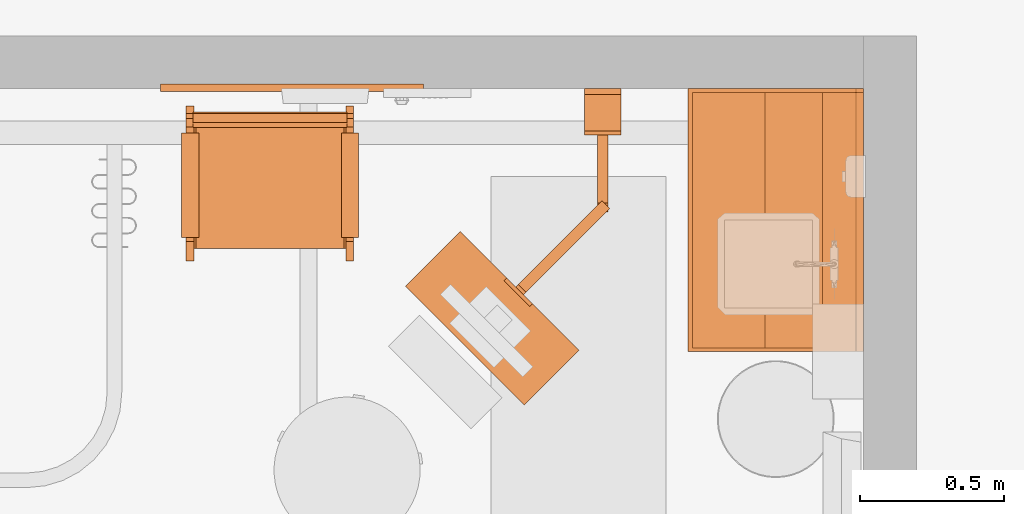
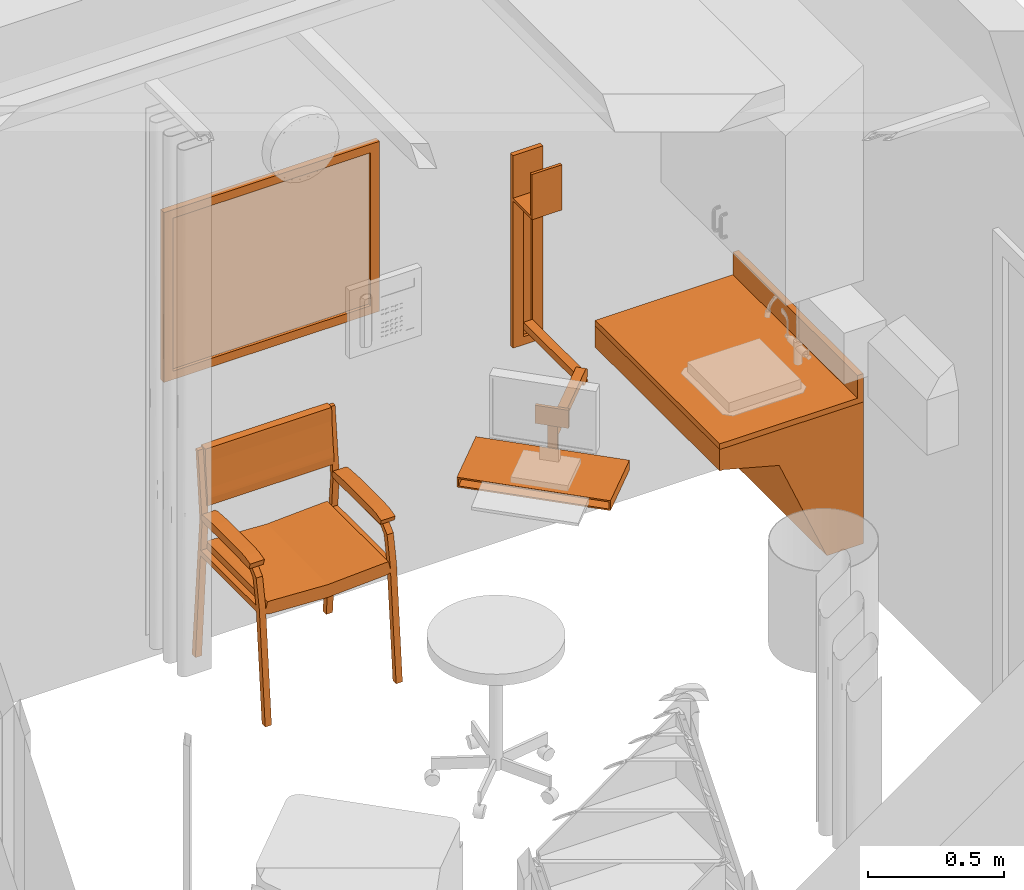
# One storey, part 53 of 142: 5 proxies.
"""IFC2X3 building model written with IfcOpenShell, lengths in feet."""

from ifc_helpers import new_model, entity, si_unit, converted_unit, derived_unit, direction, frame, frame_2d, origin, origin_2d_with_axis, place, context, subcontext, project, spatial, polyline, circle_curve, parameter, trimmed, segment, composite_curve, rectangle, circle, outline, extrude, source, transform, mapped, type_object, type_shapes, element, save


model = new_model("IFC2X3")

# Units and contexts
model_context = context("Model", 3, precision=0.0001, world=origin(), true_north=direction((6.12303176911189e-17, 1.0)))
body_context = subcontext(model_context, "Body", "Model", "MODEL_VIEW")
ifc_project = project(units=[converted_unit("LENGTHUNIT", "FOOT", entity("IfcRatioMeasure", 0.3048), si_unit("LENGTHUNIT", "METRE"), dimensions=[1, 0, 0, 0, 0, 0, 0]), converted_unit("AREAUNIT", "SQUARE FOOT", entity("IfcRatioMeasure", 0.09290304), si_unit("AREAUNIT", "SQUARE_METRE"), dimensions=[2, 0, 0, 0, 0, 0, 0]), converted_unit("VOLUMEUNIT", "CUBIC FOOT", entity("IfcRatioMeasure", 0.028316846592), si_unit("VOLUMEUNIT", "CUBIC_METRE"), dimensions=[3, 0, 0, 0, 0, 0, 0]), converted_unit("PLANEANGLEUNIT", "DEGREE", entity("IfcRatioMeasure", 0.0174532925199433), si_unit("PLANEANGLEUNIT", "RADIAN"), dimensions=[0, 0, 0, 0, 0, 0, 0]), si_unit("MASSUNIT", "GRAM", prefix="KILO"), derived_unit("MASSDENSITYUNIT", [(si_unit("MASSUNIT", "GRAM", prefix="KILO"), 1), (si_unit("LENGTHUNIT", "METRE"), -3)]), si_unit("TIMEUNIT", "SECOND"), si_unit("FREQUENCYUNIT", "HERTZ"), si_unit("THERMODYNAMICTEMPERATUREUNIT", "DEGREE_CELSIUS"), derived_unit("THERMALTRANSMITTANCEUNIT", [(si_unit("MASSUNIT", "GRAM", prefix="KILO"), 1), (si_unit("THERMODYNAMICTEMPERATUREUNIT", "KELVIN"), -1), (si_unit("TIMEUNIT", "SECOND"), -3)]), derived_unit("VOLUMETRICFLOWRATEUNIT", [(si_unit("LENGTHUNIT", "METRE"), 3), (si_unit("TIMEUNIT", "SECOND"), -1)]), si_unit("ELECTRICCURRENTUNIT", "AMPERE"), si_unit("ELECTRICVOLTAGEUNIT", "VOLT"), si_unit("POWERUNIT", "WATT"), si_unit("FORCEUNIT", "NEWTON"), si_unit("ILLUMINANCEUNIT", "LUX"), si_unit("LUMINOUSFLUXUNIT", "LUMEN"), si_unit("LUMINOUSINTENSITYUNIT", "CANDELA"), derived_unit("USERDEFINED", [(si_unit("MASSUNIT", "GRAM", prefix="KILO"), -1), (si_unit("LENGTHUNIT", "METRE"), -2), (si_unit("TIMEUNIT", "SECOND"), 3), (si_unit("LUMINOUSFLUXUNIT", "LUMEN"), 1)]), derived_unit("LINEARVELOCITYUNIT", [(si_unit("LENGTHUNIT", "METRE"), 1), (si_unit("TIMEUNIT", "SECOND"), -1)]), si_unit("PRESSUREUNIT", "PASCAL"), derived_unit("USERDEFINED", [(si_unit("LENGTHUNIT", "METRE"), -2), (si_unit("MASSUNIT", "GRAM", prefix="KILO"), 1), (si_unit("TIMEUNIT", "SECOND"), -2)])], contexts=[model_context])

# Site, building, storey
site_placement = place(None, origin())
site = spatial("IfcSite", under=ifc_project, at=site_placement, Name="Default", CompositionType="ELEMENT")
building_placement = place(site_placement, origin())
building = spatial("IfcBuilding", under=site, at=building_placement, Name="OUTPATIENT / PACT CLINIC (Ch. 265)", CompositionType="ELEMENT")
storey_placement = place(building_placement, origin())
storey = spatial("IfcBuildingStorey", under=building, at=storey_placement, Name="LEVEL 1", CompositionType="ELEMENT", Elevation=0.0)

# Proxy
building_element_proxy_type_1 = type_object("IfcBuildingElementProxyType", Name="F3025 - Board, Bulletin, Wood Framed", PredefinedType="NOTDEFINED")
shared_shape_1 = source(origin(), body_context, "Body", "SweptSolid", [
    extrude(rectangle(XDim=0.0416666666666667, YDim=2.74999999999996, at=origin_2d_with_axis()), frame((0.0, -0.020833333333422, 0.124999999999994), z_axis=(0.0, 0.0, 1.0), x_axis=(0.0, 1.0, 0.0)), (0.0, 0.0, 1.0), 2.25000000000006),
    extrude(outline(polyline([(-1.49999999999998, -1.25), (1.49999999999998, -1.25), (1.49999999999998, 1.25), (-1.49999999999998, 1.25), (-1.49999999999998, -1.25)]), holes=[polyline([(-1.37499999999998, -1.125), (-1.37499999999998, 1.12500000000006), (1.37499999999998, 1.12500000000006), (1.37499999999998, -1.125), (-1.37499999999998, -1.125)])]), frame((0.0, -0.0833333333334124, 1.25), z_axis=(0.0, 1.0, 0.0), x_axis=(-1.0, 0.0, 0.0)), (0.0, 0.0, 1.0), 0.0833333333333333),
])
type_shapes(building_element_proxy_type_1, [shared_shape_1])
proxy_1_placement = place(storey_placement, frame((396.945201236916, -876.368436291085, 4.0)))
element("IfcBuildingElementProxy", 1, at=proxy_1_placement, inside=storey, type_object=building_element_proxy_type_1, Name="F3025 - Board, Bulletin, Wood Framed:F3025 - Board, Bulletin, Wood Framed", ObjectType="F3025 - Board, Bulletin, Wood Framed", context=body_context, shape_type="MappedRepresentation", body=[
    mapped(shared_shape_1, transform((0.0, 0.0, 0.0), scale=1.0)),
])

# Space
space_placement = place(storey_placement, origin())
space = spatial("IfcSpace", under=storey, at=space_placement, Name="EXPA01", CompositionType="ELEMENT", InteriorOrExteriorSpace="INTERNAL")

# Proxies
building_element_proxy_type_2 = type_object("IfcBuildingElementProxyType", Name="M1803 - Workstation, Computer, Wall Mounted", PredefinedType="NOTDEFINED")
shared_shape_2 = source(origin(), body_context, "Body", "SweptSolid", [
    extrude(circle(Radius=0.104166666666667, at=frame_2d((1.0547118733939e-15, 3.336446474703e-16), x_axis=(1.0, 0.0))), frame((-0.0810226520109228, -1.34888430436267, 0.333333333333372), z_axis=(0.707106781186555, -0.70710678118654, 0.0), x_axis=(0.0, 0.0, 1.0)), (0.0, 0.0, 1.0), 0.125000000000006),
    extrude(outline(composite_curve([segment(polyline([(0.0520833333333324, -0.592708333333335), (0.0520833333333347, 0.644791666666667)]), True, "CONTINUOUS"), segment(polyline([(0.0520833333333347, 0.644791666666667), (-0.0520833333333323, 0.644791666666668)]), True, "CONTINUOUS"), segment(polyline([(-0.0520833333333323, 0.644791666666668), (-0.0520833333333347, -0.696875)]), True, "CONTINUOUS"), segment(trimmed(circle_curve(frame_2d((0.0520833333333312, -0.696875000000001), x_axis=(1.0, 0.0)), 0.104166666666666), [parameter(89.9999999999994)], [parameter(180.0)], True, "PARAMETER"), False, "CONTINUOUS")], self_intersect=False)), frame((-0.0624999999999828, -0.711458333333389, 0.281250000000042), z_axis=(-1.0, 0.0, 0.0), x_axis=(0.0, 0.0, 1.0)), (0.0, 0.0, -1.0), 0.125000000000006),
    extrude(outline(composite_curve([segment(polyline([(0.0520833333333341, -0.651041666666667), (0.0520833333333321, 0.598958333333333)]), True, "CONTINUOUS"), segment(polyline([(0.0520833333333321, 0.598958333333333), (-0.0520833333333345, 0.598958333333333)]), True, "CONTINUOUS"), segment(polyline([(-0.0520833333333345, 0.598958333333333), (-0.0520833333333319, -0.546875)]), True, "CONTINUOUS"), segment(trimmed(circle_curve(frame_2d((-0.0520833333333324, -0.651041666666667), x_axis=(1.0, 0.0)), 0.104166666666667), [parameter(1.01777749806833e-13)], [parameter(90.0000000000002)], True, "PARAMETER"), False, "CONTINUOUS")], self_intersect=False)), frame((-0.452990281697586, -1.89762862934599, 0.385416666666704), z_axis=(0.707106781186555, -0.70710678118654, 0.0), x_axis=(0.0, 0.0, 1.0)), (0.0, 0.0, -1.0), 0.125000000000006),
    extrude(outline(polyline([(-0.0729166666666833, -0.95833333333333), (0.0729166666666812, -0.95833333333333), (0.0729166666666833, 0.95833333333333), (-0.0729166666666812, 0.95833333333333), (-0.0729166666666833, -0.95833333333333)]), holes=[polyline([(-0.05208333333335, -0.937499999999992), (-0.052083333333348, 0.937499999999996), (0.0520833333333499, 0.937499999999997), (0.0520833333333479, -0.937499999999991), (-0.05208333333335, -0.937499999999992)])]), frame((-1.5747857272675, -2.93103572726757, 0.0729166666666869), z_axis=(0.707106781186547, 0.707106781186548, 0.0), x_axis=(0.0, 0.0, -1.0)), (0.0, 0.0, 1.0), 0.883333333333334),
    extrude(rectangle(XDim=0.0666666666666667, YDim=0.416666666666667, at=origin_2d_with_axis()), frame((0.0, -0.0333333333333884, 0.0), z_axis=(0.0, 0.0, 1.0), x_axis=(0.0, 1.0, 0.0)), (0.0, 0.0, 1.0), 0.11949518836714),
    extrude(outline(polyline([(-0.208333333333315, -0.0270833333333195), (-0.0625000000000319, -0.0270833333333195), (-0.0625000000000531, 0.014583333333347), (0.0625000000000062, 0.014583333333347), (0.0625000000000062, -0.0270833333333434), (0.208333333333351, -0.0270833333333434), (0.208333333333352, 0.0395833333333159), (-0.208333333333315, 0.0395833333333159), (-0.208333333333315, -0.0270833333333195)])), frame((0.0, -0.0395833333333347, 0.119495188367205)), (0.0, 0.0, 1.0), 2.0471714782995),
    extrude(outline(polyline([(-0.194444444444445, 0.125), (0.430555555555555, 0.125), (0.430555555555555, 0.166666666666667), (-0.236111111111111, 0.166666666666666), (-0.236111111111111, -0.291666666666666), (-0.194444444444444, -0.291666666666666), (-0.194444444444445, 0.125)])), frame((-0.208333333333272, -0.358333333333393, 2.40277777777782), z_axis=(1.0, 0.0, 0.0), x_axis=(0.0, 0.0, 1.0)), (0.0, 0.0, 1.0), 0.416666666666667),
    extrude(rectangle(XDim=0.0416666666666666, YDim=0.416666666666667, at=frame_2d((4.16333634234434e-17, -5.55111512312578e-17), x_axis=(1.0, 0.0))), frame((-0.964906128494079, -2.3211561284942, 0.503601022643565), z_axis=(0.0, 0.0, 1.0), x_axis=(0.707106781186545, 0.70710678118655, 0.0)), (0.0, 0.0, 1.0), 0.267232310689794),
    extrude(rectangle(XDim=0.125000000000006, YDim=0.0416666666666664, at=frame_2d((-1.94289029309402e-16, 1.16226472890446e-16), x_axis=(1.0, 0.0))), frame((-0.935443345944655, -2.29169334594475, 0.0), z_axis=(0.0, 0.0, 1.0), x_axis=(-0.707106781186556, 0.70710678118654, 0.0)), (0.0, 0.0, 1.0), 0.666666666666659),
    extrude(rectangle(XDim=0.0666666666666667, YDim=0.416666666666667, at=origin_2d_with_axis()), frame((0.0, -0.0333333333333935, 2.16666666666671), z_axis=(0.0, 0.0, 1.0), x_axis=(0.0, 1.0, 0.0)), (0.0, 0.0, 1.0), 0.666666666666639),
])
type_shapes(building_element_proxy_type_2, [shared_shape_2])
proxy_2_placement = place(space_placement, frame((400.489351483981, -876.420519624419, 2.83333333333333)))
element("IfcBuildingElementProxy", 2, at=proxy_2_placement, inside=space, type_object=building_element_proxy_type_2, Name="M1803 - Workstation, Computer, Wall Mounted1:M1803 - Workstation, Computer, Wall Mounted", ObjectType="M1803 - Workstation, Computer, Wall Mounted", context=body_context, shape_type="MappedRepresentation", body=[
    mapped(shared_shape_2, transform((0.0, 0.0, 0.0), scale=1.0)),
])
building_element_proxy_type_3 = type_object("IfcBuildingElementProxyType", Name="F0205 - Chair, Side With Arms", PredefinedType="NOTDEFINED")
shared_shape_3 = source(origin(), body_context, "Body", "SweptSolid", [
    extrude(outline(polyline([(-0.104007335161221, -0.374369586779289), (-0.027711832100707, -0.374369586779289), (-0.0197350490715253, -0.338348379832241), (0.00592434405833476, -0.182113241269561), (0.0162560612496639, -0.135457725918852), (0.0457826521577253, -0.00212284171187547), (0.0856087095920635, 0.177721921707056), (0.112798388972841, 0.276572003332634), (0.120257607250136, 0.307674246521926), (0.129202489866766, 0.415216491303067), (0.045581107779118, 0.433734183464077), (0.0167028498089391, 0.395704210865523), (-0.0364083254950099, 0.222671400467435), (-0.125070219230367, -0.177704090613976), (-0.13682888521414, -0.27538652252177), (-0.128352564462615, -0.36942248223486), (-0.104007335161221, -0.374369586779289)])), frame((-0.891159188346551, -0.878769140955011, 2.73061112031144), z_axis=(0.0, 1.0, 0.0), x_axis=(0.991475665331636, 0.0, -0.130291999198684)), (0.0, 0.0, 1.0), 1.75919993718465),
    extrude(outline(polyline([(0.0907668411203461, -0.842703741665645), (0.261538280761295, -0.842703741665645), (0.265730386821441, -0.773999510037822), (0.127479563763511, 0.0287496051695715), (-0.0923338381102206, 0.813085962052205), (-0.125373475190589, 0.873420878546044), (-0.279635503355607, 0.800086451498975), (-0.270660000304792, 0.752608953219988), (-0.0560029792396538, -0.0126173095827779), (0.0784907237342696, -0.795927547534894), (0.0907668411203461, -0.842703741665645)])), frame((-0.90556950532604, 0.000822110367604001, 1.62079321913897), z_axis=(1.0, 0.0, 0.0), x_axis=(0.0, -0.219936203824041, -0.975514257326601)), (0.0, 0.0, 1.0), 1.47211210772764),
    extrude(outline(polyline([(-0.552031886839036, -0.234422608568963), (-0.484734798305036, -0.234422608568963), (-0.233837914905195, -0.160903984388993), (0.324339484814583, 0.0422559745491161), (0.453697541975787, 0.101150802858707), (0.564536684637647, 0.176717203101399), (0.51204038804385, 0.250193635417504), (0.420212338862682, 0.216770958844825), (0.254858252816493, 0.145732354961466), (-0.246233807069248, -0.0366502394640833), (-0.436544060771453, -0.0986810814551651), (-0.576302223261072, -0.167740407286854), (-0.552031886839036, -0.234422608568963)])), frame((-0.1510824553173, -1.00916916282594, 2.22827697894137), z_axis=(0.0, 1.0, 0.0), x_axis=(0.939692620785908, 0.0, 0.34202014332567)), (0.0, 0.0, 1.0), 0.198199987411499),
    extrude(outline(polyline([(-0.525375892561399, -0.221085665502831), (-0.458078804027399, -0.221085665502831), (-0.207181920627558, -0.147567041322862), (0.350995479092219, 0.0555929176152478), (0.480353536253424, 0.114487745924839), (0.591192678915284, 0.190054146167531), (0.551062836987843, 0.246221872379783), (0.114629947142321, 0.0873732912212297), (0.281514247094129, 0.159069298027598), (-0.219577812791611, -0.0233132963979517), (-0.409888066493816, -0.0853441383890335), (-0.549646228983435, -0.154403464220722), (-0.525375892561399, -0.221085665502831)])), frame((-0.180692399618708, 0.814330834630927, 2.23169271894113), z_axis=(0.0, 1.0, 0.0), x_axis=(0.939692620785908, 0.0, 0.34202014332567)), (0.0, 0.0, 1.0), 0.196499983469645),
    extrude(outline(polyline([(0.0166377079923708, -0.666422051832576), (0.099971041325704, -0.666422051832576), (-0.0172324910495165, 0.673220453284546), (-0.0993762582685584, 0.659623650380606), (0.0166377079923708, -0.666422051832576)])), frame((-0.182442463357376, -0.954369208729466, 1.61480726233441), z_axis=(0.0, 1.0, 0.0), x_axis=(0.0871557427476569, 0.0, -0.996194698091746)), (0.0, 0.0, 1.0), 0.0833333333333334),
    extrude(outline(polyline([(0.0166377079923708, -0.666422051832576), (0.099971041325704, -0.666422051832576), (-0.0172324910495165, 0.673220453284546), (-0.0993762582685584, 0.659623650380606), (0.0166377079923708, -0.666422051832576)])), frame((-0.182442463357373, 0.867430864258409, 1.61480726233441), z_axis=(0.0, 1.0, 0.0), x_axis=(0.0871557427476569, 0.0, -0.996194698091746)), (0.0, 0.0, 1.0), 0.0833333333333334),
    extrude(outline(polyline([(0.811855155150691, -1.61770011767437), (0.895188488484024, -1.61770011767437), (0.71143329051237, 0.489199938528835), (0.806416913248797, 1.46713632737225), (0.751033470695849, 1.46713632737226), (0.656855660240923, 0.571094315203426), (-0.516612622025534, 0.571094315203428), (-0.653571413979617, 0.441277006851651), (-0.728375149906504, 0.0391907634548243), (-0.871611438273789, -1.61770011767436), (-0.791571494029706, -1.61770011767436), (-0.646611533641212, 0.0391998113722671), (-0.578172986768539, 0.407071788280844), (-0.496044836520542, 0.48919993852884), (0.649788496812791, 0.489199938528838), (0.811855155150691, -1.61770011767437)])), frame((-0.163768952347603, -0.954369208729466, 1.61770011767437), z_axis=(0.0, 1.0, 0.0), x_axis=(-1.0, 0.0, 0.0)), (0.0, 0.0, 1.0), 0.0885709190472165),
    extrude(outline(polyline([(0.811855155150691, -1.61770011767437), (0.895188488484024, -1.61770011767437), (0.71143329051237, 0.489199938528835), (0.806416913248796, 1.46713632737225), (0.751033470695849, 1.46713632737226), (0.656855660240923, 0.571094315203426), (-0.516612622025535, 0.571094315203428), (-0.653571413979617, 0.441277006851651), (-0.728375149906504, 0.0391907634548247), (-0.871611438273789, -1.61770011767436), (-0.791571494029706, -1.61770011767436), (-0.646611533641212, 0.0391998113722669), (-0.578172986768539, 0.407071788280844), (-0.496044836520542, 0.48919993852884), (0.649788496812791, 0.489199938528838), (0.811855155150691, -1.61770011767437)])), frame((-0.1637689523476, 0.867430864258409, 1.61770011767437), z_axis=(0.0, 1.0, 0.0), x_axis=(-1.0, 0.0, 0.0)), (0.0, 0.0, 1.0), 0.0885709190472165),
])
type_shapes(building_element_proxy_type_3, [shared_shape_3])
proxy_3_placement = place(space_placement, frame((396.692476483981, -877.675727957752, 0.0), z_axis=(0.0, 0.0, 1.0), x_axis=(0.0, -1.0, 0.0)))
element("IfcBuildingElementProxy", 3, at=proxy_3_placement, inside=space, type_object=building_element_proxy_type_3, Name="F0205 - Chair, Side With Arms:F0205 - Chair, Side With Arms", ObjectType="F0205 - Chair, Side With Arms", context=body_context, shape_type="MappedRepresentation", body=[
    mapped(shared_shape_3, transform((0.0, 0.0, 0.0), scale=1.0)),
])
building_element_proxy_type_4 = type_object("IfcBuildingElementProxyType", Name="CT020 - Countertop, Solid Surface - No Opening (1)", PredefinedType="NOTDEFINED")
shared_shape_4 = source(origin(), body_context, "Body", "SweptSolid", [
    extrude(rectangle(XDim=3.0, YDim=0.083333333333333, at=frame_2d((0.0, -5.55111512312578e-17), x_axis=(1.0, 0.0))), frame((0.0, 0.958333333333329, 0.0833333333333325)), (0.0, 0.0, 1.0), 0.333333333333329),
    extrude(rectangle(XDim=3.0, YDim=2.0, at=origin_2d_with_axis()), origin(), (0.0, 0.0, 1.0), 0.0833333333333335),
])
type_shapes(building_element_proxy_type_4, [shared_shape_4])
proxy_4_placement = place(space_placement, frame((402.463309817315, -877.920519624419, 2.70833333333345), z_axis=(0.0, 0.0, 1.0), x_axis=(0.0, -1.0, 0.0)))
element("IfcBuildingElementProxy", 4, at=proxy_4_placement, inside=space, type_object=building_element_proxy_type_4, Name="CT020 - Countertop, Solid Surface - No Opening (1):CT020 - Countertop, Solid Surface - No Opening (1)", ObjectType="CT020 - Countertop, Solid Surface - No Opening (1)", context=body_context, shape_type="MappedRepresentation", body=[
    mapped(shared_shape_4, transform((0.0, 0.0, 0.0), scale=1.0)),
])
building_element_proxy_type_5 = type_object("IfcBuildingElementProxyType", Name="24\"H x 24\"D x 36\"W", PredefinedType="NOTDEFINED")
shared_shape_5 = source(origin(), body_context, "Body", "SweptSolid", [
    extrude(outline(polyline([(-0.750382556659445, 0.0187614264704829), (0.944711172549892, 0.0187614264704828), (1.14381332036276, 0.488200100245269), (1.08627459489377, 0.51260389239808), (0.903330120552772, 0.081261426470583), (-0.774516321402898, 0.0812614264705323), (-1.30874051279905, -0.586799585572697), (-1.24448981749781, -0.614050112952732), (-0.750382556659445, 0.0187614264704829)])), frame((-1.45833333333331, -1.19293570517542, 1.67489402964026), z_axis=(1.0, 0.0, 0.0), x_axis=(0.0, 0.390460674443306, -0.920619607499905)), (0.0, 0.0, 1.0), 2.91666666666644),
    extrude(outline(polyline([(-1.24925608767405, -0.929380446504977), (0.834077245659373, -0.929380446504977), (0.834077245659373, 1.01791116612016), (0.519077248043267, 1.01791116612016), (0.311280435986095, 0.242403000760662), (-1.24925608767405, -0.41946443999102), (-1.24925608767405, -0.929380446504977)])), frame((-1.49999999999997, -1.2262554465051, 2.06175608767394), z_axis=(1.0, 0.0, 0.0), x_axis=(0.0, 0.0, 1.0)), (0.0, 0.0, 1.0), 0.0416666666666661),
    extrude(rectangle(XDim=3.0, YDim=0.0527083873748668, at=frame_2d((0.0, -2.22044604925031e-16), x_axis=(1.0, 0.0))), frame((0.0, -2.27052080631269, 2.58083333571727), z_axis=(0.0, 0.0, 1.0), x_axis=(-1.0, 0.0, 0.0)), (0.0, 0.0, 1.0), 0.314999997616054),
    extrude(outline(polyline([(-1.24925608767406, -0.929380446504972), (0.834077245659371, -0.929380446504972), (0.834077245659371, 1.01791116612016), (0.519077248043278, 1.01791116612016), (0.311280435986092, 0.24240300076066), (-1.24925608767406, -0.419464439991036), (-1.24925608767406, -0.929380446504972)])), frame((1.45833333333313, -1.22625544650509, 2.06175608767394), z_axis=(1.0, 0.0, 0.0), x_axis=(0.0, 0.0, 1.0)), (0.0, 0.0, 1.0), 0.0416666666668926),
])
type_shapes(building_element_proxy_type_5, [shared_shape_5])
proxy_5_placement = place(space_placement, frame((403.760184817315, -877.920519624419, -0.187499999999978), z_axis=(0.0, 0.0, 1.0), x_axis=(0.0, -1.0, 0.0)))
element("IfcBuildingElementProxy", 5, at=proxy_5_placement, inside=space, type_object=building_element_proxy_type_5, Name="Z1018 - Cabinet, ADA Sink Support:24\"H x 24\"D x 36\"W", ObjectType="24\"H x 24\"D x 36\"W", context=body_context, shape_type="MappedRepresentation", body=[
    mapped(shared_shape_5, transform((0.0, 0.0, 0.0), scale=1.0)),
])

save(model, "model.ifc")
